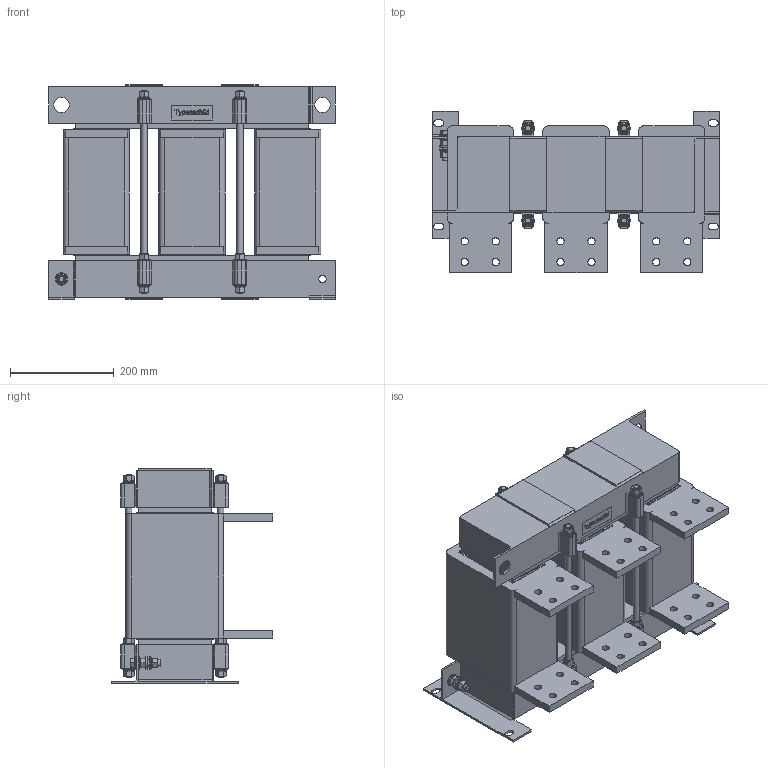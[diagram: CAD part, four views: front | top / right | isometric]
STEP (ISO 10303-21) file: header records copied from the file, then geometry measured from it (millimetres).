
FILE_DESCRIPTION((''),'2;1');
FILE_NAME('C:\Users\fp1\CAD-Daten\DDK\DDK40 2900.stp','2014-06-26T10:51:15',('FP1'),(''),'Autodesk Inventor 2013','Autodesk Inventor 2013','');
FILE_SCHEMA(('AUTOMOTIVE_DESIGN { 1 0 10303 214 1 1 1 1 }'));
Length unit declared in the file: millimetre
Products named in the file (1): Bauteil46
Bounding box: 554 x 311.5 x 414 mm (x, y, z)
Volume: 29022823.7 mm3; surface area: 2035896.4 mm2
Topology: 4 solids, 4 shells, 2251 faces, 6630 edges, 4257 vertices
Faces by surface type: plane 1956, cylinder 180, bspline 68, cone 47
Full cylindrical faces by diameter (mm): 12 x18, 13 x14, 14 x25, 16.63 x1, 24 x14, 30 x2
Entity records: 72550 total; most frequent: CARTESIAN_POINT 16254, ORIENTED_EDGE 12926, DIRECTION 10406, EDGE_CURVE 6463, VECTOR 4336, LINE 4336, VERTEX_POINT 4205, AXIS2_PLACEMENT_3D 3035
